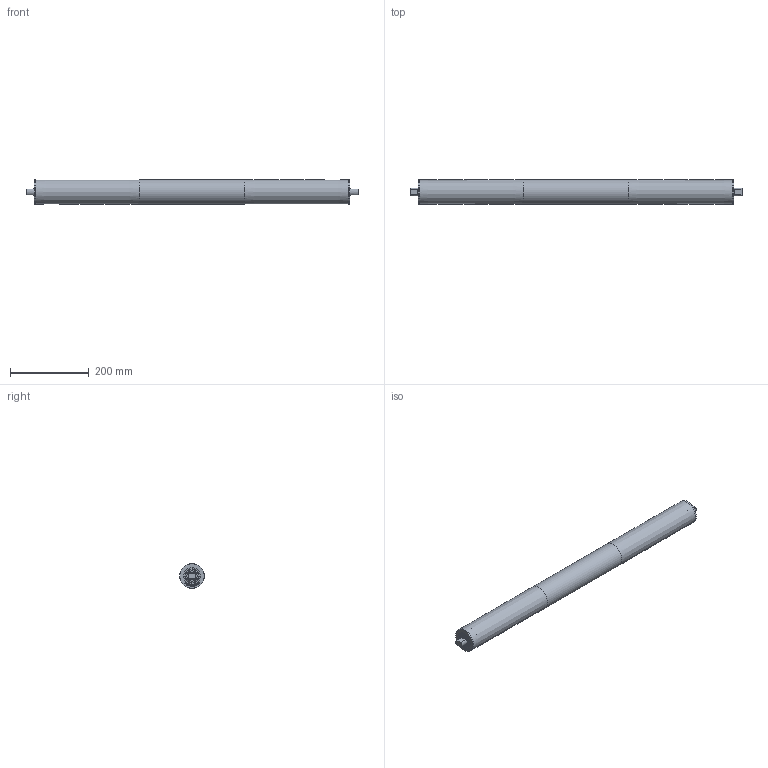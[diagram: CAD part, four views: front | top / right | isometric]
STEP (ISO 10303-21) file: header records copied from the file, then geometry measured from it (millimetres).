
FILE_DESCRIPTION(/* description */ (''),/* implementation_level */ '2;1');
FILE_NAME(/* name */ 'C:\WF_Ellegaard\Designs\00 standart komponenter\Tromlemotor\Scandrive S\Ø60\Scandrive S Ø60 RL800.stp',/* time_stamp */ '2017-04-19T18:10:47+02:00',/* author */ ('guh'),/* organization */ (''),/* preprocessor_version */ 'ST-DEVELOPER v15.6',/* originating_system */ 'Autodesk Inventor 2015',/* authorisation */ '');
FILE_SCHEMA (('AUTOMOTIVE_DESIGN { 1 0 10303 214 3 1 1 }'));
Length unit declared in the file: millimetre
Products named in the file (1): Scandrive S Ø60 RL800
Bounding box: 841 x 62.5 x 62.5 mm (x, y, z)
Volume: 506135 mm3; surface area: 309399.6 mm2
Topology: 1 solids, 2 shells, 454 faces, 1186 edges, 790 vertices
Faces by surface type: plane 236, bspline 196, cylinder 16, cone 4, torus 2
Full cylindrical faces by diameter (mm): 20 x2, 26 x2, 26.02 x2, 41.98 x2, 42 x2, 57 x1, 61.491 x2, 61.5 x2, 62.5 x1
Entity records: 14806 total; most frequent: CARTESIAN_POINT 4953, ORIENTED_EDGE 2324, DIRECTION 1336, EDGE_CURVE 1162, VERTEX_POINT 788, LINE 722, VECTOR 722, EDGE_LOOP 530
